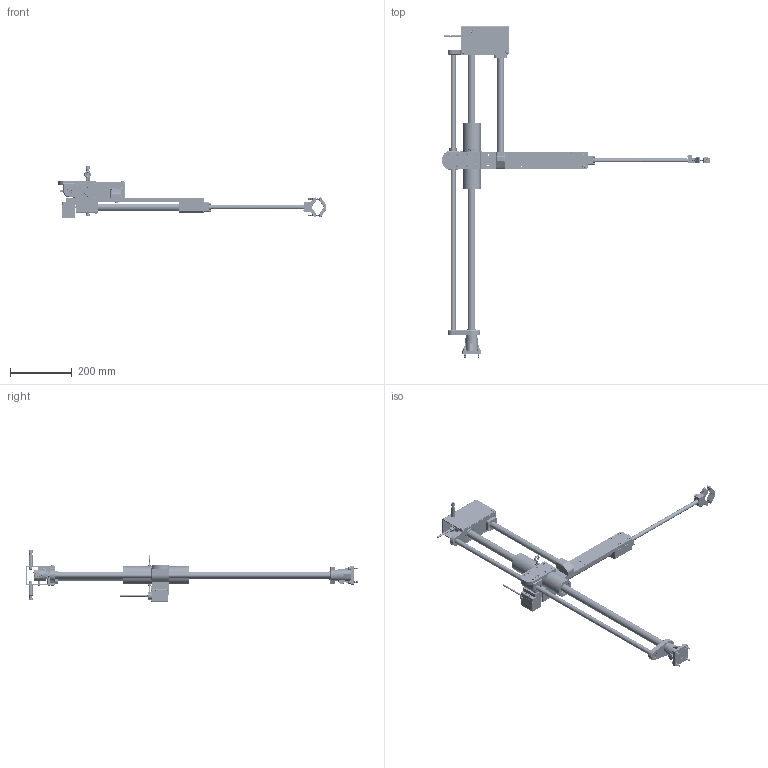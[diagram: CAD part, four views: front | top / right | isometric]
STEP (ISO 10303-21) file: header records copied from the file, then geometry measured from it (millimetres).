
FILE_DESCRIPTION (( 'STEP AP214' ), '1' );
FILE_NAME ('80100.STEP', '2018-03-27T12:42:03', ( '' ), ( '' ), 'SwSTEP 2.0', 'SolidWorks 2018', '' );
FILE_SCHEMA (( 'AUTOMOTIVE_DESIGN' ));
Length unit declared in the file: inch
Products named in the file (75): 01.01.21.0648.STEP; 00.00.04.0695.STEP; 00.00.04.0602_DIN 7991 - M8 x 30--- 11.8N.STEP; 00.00.04.0011.STEP; 01.01.21.0646.STEP; 00.00.04.0120.STEP; 00.00.04.0579_DIN 7991 - M4 x 16 --- 14N.STEP; 01.01.21.0644.STEP; 00.00.04.0468_1.STEP; 00.00.04.0013.STEP; 01.01.21.0647.STEP; 01.01.22.0114.STEP; 01.01.21.0442.STEP; 00.00.04.0192.STEP; 01.01.20.0185.STEP; 00.00.04.0786.STEP; 01.01.21.0441.STEP; 01.01.21.0566.STEP; 01.01.20.0184.STEP; 00.00.04.0495_1.STEP; 01.01.21.0440.STEP; 01.01.20.0169.STEP; 01.01.22.0304.STEP; 01.01.21.0425.STEP; 00.00.04.0523_1.STEP; 01.01.21.0539.STEP; 01.01.22.0153.STEP; 01.01.22.0147.STEP; 00.00.04.0525_1.STEP; 00.00.04.0031.STEP; 00.00.04.2942.STEP; 00.00.04.0030.STEP; 01.01.21.0435.STEP; 00.00.04.0470_1.STEP; 00.00.04.0424.STEP; 01.01.22.0417.STEP; 00.00.04.0015.STEP; 00.00.04.2736.STEP; 00.00.03.1190.STEP; INSERTO FILETTATO M8.STEP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
Assembly tree (134 placements, depth 4):
  80100
    040.0104.000_3ENCODER.STEP
      01.01.22.0417.STEP
        01.01.22.0303.STEP
        INSERTO FILETTATO M8.STEP  x2
      00.00.04.0030.STEP
      01.01.22.0147.STEP
      01.01.21.0425.STEP
      00.00.04.0495_1.STEP  x5
      00.00.04.0786.STEP  x4
      01.01.22.0114.STEP  x2
      00.00.04.0468_1.STEP  x14
      00.00.04.0120.STEP  x2
      00.00.04.0695.STEP  x2
      00.00.04.0452_1.STEP  x4
      01.01.21.0188.STEP
      00.00.04.2819.STEP
      00.00.04.0471_1.STEP  x4
      01.01.22.0017.STEP
      00.00.04.2853.STEP  x2
      01.01.21.0544.STEP
      01.01.21.0548.STEP
      01.01.21.0037.STEP
      00.00.04.2736.STEP  x2
      00.00.04.0470_1.STEP  x2
      00.00.04.0031.STEP  x2
      01.01.21.0539.STEP
      01.01.20.0169.STEP
      01.01.21.0566.STEP
      00.00.04.0192.STEP
      00.00.04.0579_DIN 7991 - M4 x 16 --- 14N.STEP  x2
      00.00.04.0011.STEP  x2
      01.01.21.0439.STEP
      01.01.22.0245.STEP
      01.01.21.0543.STEP
      00.00.04.0014.STEP  x2
      00.00.04.0353.STEP  x2
      00.00.04.0516_1.STEP
      01.01.21.0541.STEP
      00.00.03.1191.STEP  x2
      01.01.21.0639.STEP
      00.00.03.1190.STEP
      00.00.04.0424.STEP  x4
      00.00.04.2942.STEP
      01.01.22.0153.STEP
      01.01.22.0304.STEP
      01.01.20.0184.STEP
      01.01.20.0185.STEP
      01.01.21.0647.STEP
      01.01.21.0644.STEP
      01.01.21.0646.STEP
      01.01.21.0648.STEP
      01.01.21.0640.STEP
      00.00.04.0469_1.STEP  x10
      01.01.21.0643.STEP
      01.01.21.0642.STEP
      01.01.21.0641.STEP  x2
      00.00.04.0291.STEP  x2
      01.01.20.0186.STEP
      00.00.04.0446_1.STEP  x2
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Bounding box: 871.48 x 1077.4 x 167.1 mm (x, y, z)
Volume: 2392543.8 mm3; surface area: 888141.1 mm2
Topology: 181 solids, 195 shells, 13484 faces, 29726 edges, 16583 vertices
Faces by surface type: cone 8830, cylinder 2156, plane 1850, torus 464, bspline 184
Full cylindrical faces by diameter (mm): 5 x2
Entity records: 183635 total; most frequent: CARTESIAN_POINT 42769, DIRECTION 31140, ORIENTED_EDGE 26992, EDGE_CURVE 13503, AXIS2_PLACEMENT_3D 12611, VERTEX_POINT 7982, CIRCLE 6639, EDGE_LOOP 6478
